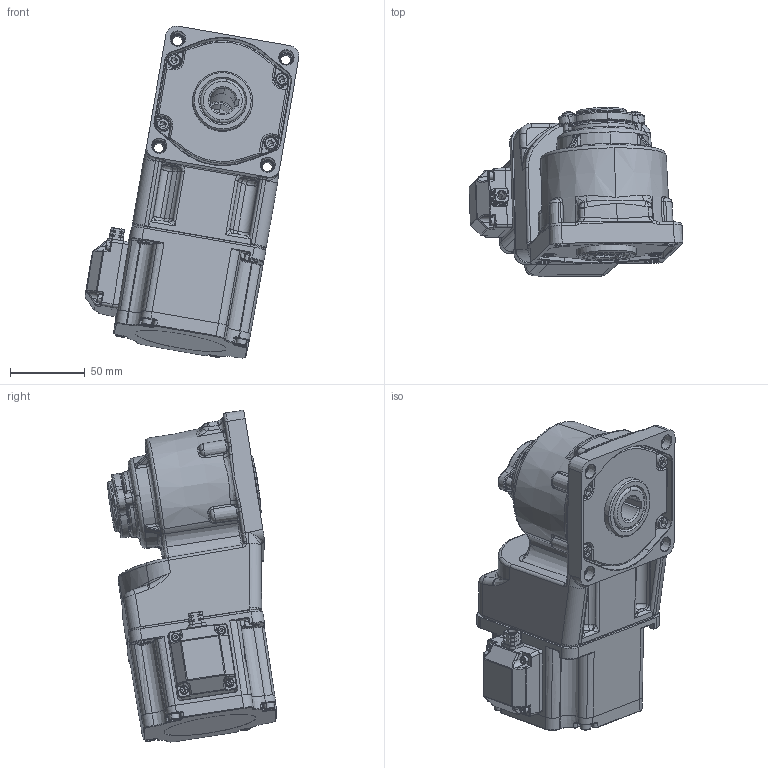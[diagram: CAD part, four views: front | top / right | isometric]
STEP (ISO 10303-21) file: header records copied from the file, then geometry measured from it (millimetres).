
FILE_DESCRIPTION (( 'STEP AP214' ), '1' );
FILE_NAME ('5GURC2.STEP', '2024-03-14T05:19:34', ( '' ), ( '' ), 'SwSTEP 2.0', 'SolidWorks 2019', '' );
FILE_SCHEMA (( 'AUTOMOTIVE_DESIGN' ));
Length unit declared in the file: millimetre
Products named in the file (13): K2______.STEP^90 104__________.STEP_90K2____________.STEP_5GUK2整机带接线盒(2)_5GUK2整机带接线盒; 葩璃 (2) ^Z5BLD饜5GURCㄗ湍价陬ㄘ_5GUK2淕儂湍諉盄碟; Z5BLD配5GURC（带刹车）^5GUK2整机带接线盒; K2____90______.STEP^90K2____________.STEP_5GUK2整机带接线盒(2)_5GUK2整机带接线盒; 90K2____________.STEP^5GUK2整机带接线盒(2)_5GUK2整机带接线盒; 90 104__________.STEP^90K2____________.STEP_5GUK2整机带接线盒(2)_5GUK2整机带接线盒; hexagon socket head cap screws gb_GB_FASTENER_SCREWS_HSHCS M3X8-N.STEP^90 104__________.STEP_90K2____________.STEP_5GUK2整机带接线盒(2)_5GUK2整机带接线盒; hexagon socket head cap screws gb_GB_FASTENER_SCREWS_HSHCS M4X8-N.STEP^90K2____________.STEP_5GUK2整机带接线盒(2)_5GUK2整机带接线盒; 90 K2______.STEP^90K2____________.STEP_5GUK2整机带接线盒(2)_5GUK2整机带接线盒; 5GURC2; 5GUK2整机带接线盒(2)^5GUK2整机带接线盒; ________2023.6.28_step.STEP^90 104__________.STEP_90K2____________.STEP_5GUK2整机带接线盒(2)_5GUK2整机带接线盒; ^葩璃 (2) _Z5BLD饜5GURCㄗ湍价陬ㄘ_5GUK2淕儂湍諉盄碟
Assembly tree (18 placements, depth 5):
  5GURC2
    5GUK2整机带接线盒(2)^5GUK2整机带接线盒
      90K2____________.STEP^5GUK2整机带接线盒(2)_5GUK2整机带接线盒
        90 104__________.STEP^90K2____________.STEP_5GUK2整机带接线盒(2)_5GUK2整机带接线盒
          ________2023.6.28_step.STEP^90 104__________.STEP_90K2____________.STEP_5GUK2整机带接线盒(2)_5GUK2整机带接线盒
          K2______.STEP^90 104__________.STEP_90K2____________.STEP_5GUK2整机带接线盒(2)_5GUK2整机带接线盒
          hexagon socket head cap screws gb_GB_FASTENER_SCREWS_HSHCS M3X8-N.STEP^90 104__________.STEP_90K2____________.STEP_5GUK2整机带接线盒(2)_5GUK2整机带接线盒  x4
        K2____90______.STEP^90K2____________.STEP_5GUK2整机带接线盒(2)_5GUK2整机带接线盒
        90 K2______.STEP^90K2____________.STEP_5GUK2整机带接线盒(2)_5GUK2整机带接线盒
        hexagon socket head cap screws gb_GB_FASTENER_SCREWS_HSHCS M4X8-N.STEP^90K2____________.STEP_5GUK2整机带接线盒(2)_5GUK2整机带接线盒  x4
    Z5BLD配5GURC（带刹车）^5GUK2整机带接线盒
      葩璃 (2) ^Z5BLD饜5GURCㄗ湍价陬ㄘ_5GUK2淕儂湍諉盄碟
        ^葩璃 (2) _Z5BLD饜5GURCㄗ湍价陬ㄘ_5GUK2淕儂湍諉盄碟
Bounding box: 142.9 x 112.91 x 221.76 mm (x, y, z)
Volume: 1318875 mm3; surface area: 183758.4 mm2
Topology: 29 solids, 29 shells, 2137 faces, 5163 edges, 3013 vertices
Faces by surface type: bspline 573, plane 535, cylinder 491, cone 309, torus 169, sphere 60
Entity records: 91973 total; most frequent: CARTESIAN_POINT 49661, ORIENTED_EDGE 9442, DIRECTION 7795, EDGE_CURVE 4721, AXIS2_PLACEMENT_3D 3095, VERTEX_POINT 2815, EDGE_LOOP 2104, ADVANCED_FACE 1987
